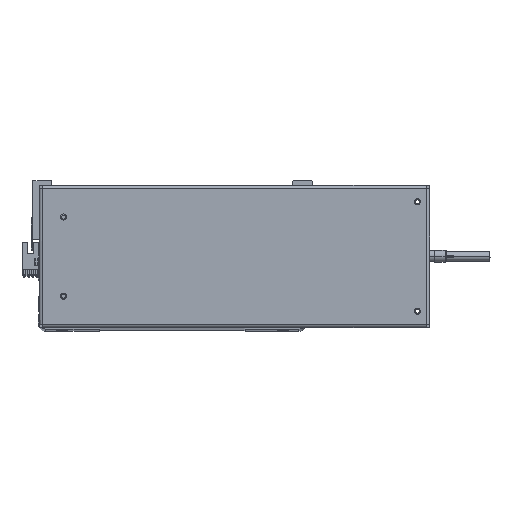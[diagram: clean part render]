
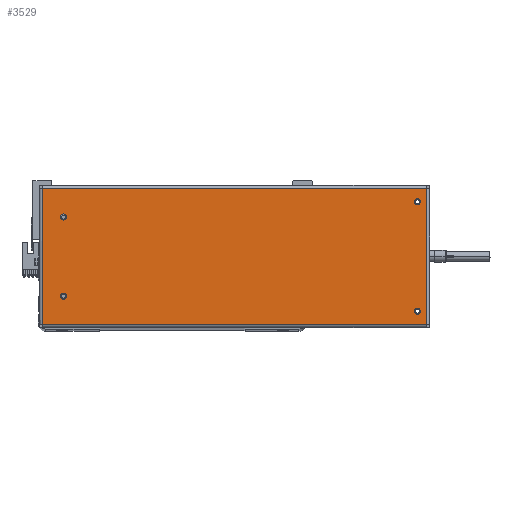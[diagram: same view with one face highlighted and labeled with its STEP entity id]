
A CAD part, top view. The second image highlights one B-rep face of the part: STEP entity #3529.
In plain terms, the highlighted planar face has unit normal (0, 0, 1).
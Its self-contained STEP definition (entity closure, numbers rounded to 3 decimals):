
#180 = ORIENTED_EDGE ( 'NONE', *, *, #4280, .T. ) ;
#339 = CARTESIAN_POINT ( 'NONE',  ( 148., -45., 0. ) ) ;
#644 = AXIS2_PLACEMENT_3D ( 'NONE', #7597, #38301, #26153 ) ;
#900 = DIRECTION ( 'NONE',  ( 0., 0., 1. ) ) ;
#1011 = CARTESIAN_POINT ( 'NONE',  ( -138., -32.5, 0. ) ) ;
#1770 = CARTESIAN_POINT ( 'NONE',  ( -143., -32.5, 0. ) ) ;
#1854 = VERTEX_POINT ( 'NONE', #31700 ) ;
#2931 = VECTOR ( 'NONE', #29731, 1000. ) ;
#3064 = VECTOR ( 'NONE', #7260, 1000. ) ;
#3361 = CIRCLE ( 'NONE', #37541, 2.5 ) ;
#3529 = ADVANCED_FACE ( 'NONE', ( #13127, #9711, #33909, #37324, #28171 ), #10865, .F. ) ;
#3578 = CARTESIAN_POINT ( 'NONE',  ( 150.5, 45., 0. ) ) ;
#4280 = EDGE_CURVE ( 'NONE', #30868, #11086, #12274, .T. ) ;
#4930 = AXIS2_PLACEMENT_3D ( 'NONE', #34902, #900, #35039 ) ;
#5795 = DIRECTION ( 'NONE',  ( 0., 0., 1. ) ) ;
#6001 = VERTEX_POINT ( 'NONE', #18735 ) ;
#6002 = CARTESIAN_POINT ( 'NONE',  ( -157.6, -55.6, 0. ) ) ;
#7030 = CIRCLE ( 'NONE', #18082, 2.5 ) ;
#7260 = DIRECTION ( 'NONE',  ( 1., 0., 0. ) ) ;
#7597 = CARTESIAN_POINT ( 'NONE',  ( -140.5, -32.5, 0. ) ) ;
#7636 = DIRECTION ( 'NONE',  ( 0., 0., 1. ) ) ;
#8881 = ORIENTED_EDGE ( 'NONE', *, *, #10517, .T. ) ;
#9534 = DIRECTION ( 'NONE',  ( 0., 0., 1. ) ) ;
#9711 = FACE_BOUND ( 'NONE', #13546, .T. ) ;
#9758 = EDGE_CURVE ( 'NONE', #26949, #13004, #17896, .T. ) ;
#9876 = ORIENTED_EDGE ( 'NONE', *, *, #34370, .F. ) ;
#9990 = EDGE_CURVE ( 'NONE', #12417, #1854, #3361, .T. ) ;
#10188 = CARTESIAN_POINT ( 'NONE',  ( 150.5, -45., 0. ) ) ;
#10517 = EDGE_CURVE ( 'NONE', #11086, #32934, #19763, .T. ) ;
#10865 = PLANE ( 'NONE',  #28105 ) ;
#11086 = VERTEX_POINT ( 'NONE', #16358 ) ;
#12274 = LINE ( 'NONE', #37312, #13268 ) ;
#12417 = VERTEX_POINT ( 'NONE', #12481 ) ;
#12481 = CARTESIAN_POINT ( 'NONE',  ( 148., 45., 0. ) ) ;
#12823 = DIRECTION ( 'NONE',  ( 1., 0., 0. ) ) ;
#12864 = CARTESIAN_POINT ( 'NONE',  ( 153., -45., 0. ) ) ;
#13004 = VERTEX_POINT ( 'NONE', #339 ) ;
#13127 = FACE_BOUND ( 'NONE', #16096, .T. ) ;
#13268 = VECTOR ( 'NONE', #18741, 1000. ) ;
#13328 = DIRECTION ( 'NONE',  ( 1., 0., 0. ) ) ;
#13340 = ORIENTED_EDGE ( 'NONE', *, *, #17297, .T. ) ;
#13515 = EDGE_CURVE ( 'NONE', #13004, #26949, #7030, .T. ) ;
#13534 = ORIENTED_EDGE ( 'NONE', *, *, #13515, .F. ) ;
#13546 = EDGE_LOOP ( 'NONE', ( #37760, #21271 ) ) ;
#13976 = CARTESIAN_POINT ( 'NONE',  ( 157.7, 58.5, 0. ) ) ;
#14633 = EDGE_LOOP ( 'NONE', ( #8881, #13340, #16345, #180 ) ) ;
#15090 = CIRCLE ( 'NONE', #38953, 2.5 ) ;
#16096 = EDGE_LOOP ( 'NONE', ( #17796, #9876 ) ) ;
#16345 = ORIENTED_EDGE ( 'NONE', *, *, #39491, .T. ) ;
#16358 = CARTESIAN_POINT ( 'NONE',  ( -157.6, 55.6, 0. ) ) ;
#17297 = EDGE_CURVE ( 'NONE', #32934, #17987, #25833, .T. ) ;
#17796 = ORIENTED_EDGE ( 'NONE', *, *, #29410, .F. ) ;
#17818 = VECTOR ( 'NONE', #22801, 1000. ) ;
#17896 = CIRCLE ( 'NONE', #24883, 2.5 ) ;
#17987 = VERTEX_POINT ( 'NONE', #23577 ) ;
#18082 = AXIS2_PLACEMENT_3D ( 'NONE', #21350, #5795, #30858 ) ;
#18499 = DIRECTION ( 'NONE',  ( 1., 0., 0. ) ) ;
#18735 = CARTESIAN_POINT ( 'NONE',  ( -143., 32.5, 0. ) ) ;
#18741 = DIRECTION ( 'NONE',  ( -1., 0., 0. ) ) ;
#19367 = LINE ( 'NONE', #20618, #2931 ) ;
#19704 = CIRCLE ( 'NONE', #4930, 2.5 ) ;
#19763 = LINE ( 'NONE', #25659, #17818 ) ;
#20100 = CIRCLE ( 'NONE', #644, 2.5 ) ;
#20458 = DIRECTION ( 'NONE',  ( 0., 0., 1. ) ) ;
#20618 = CARTESIAN_POINT ( 'NONE',  ( 157.6, -55.6, 0. ) ) ;
#21271 = ORIENTED_EDGE ( 'NONE', *, *, #28647, .F. ) ;
#21350 = CARTESIAN_POINT ( 'NONE',  ( 150.5, -45., 0. ) ) ;
#22249 = ORIENTED_EDGE ( 'NONE', *, *, #9990, .F. ) ;
#22801 = DIRECTION ( 'NONE',  ( 0., -1., 0. ) ) ;
#23577 = CARTESIAN_POINT ( 'NONE',  ( 157.6, -55.6, 0. ) ) ;
#24883 = AXIS2_PLACEMENT_3D ( 'NONE', #10188, #31837, #13328 ) ;
#25210 = CIRCLE ( 'NONE', #29788, 2.5 ) ;
#25305 = AXIS2_PLACEMENT_3D ( 'NONE', #36296, #20458, #26848 ) ;
#25659 = CARTESIAN_POINT ( 'NONE',  ( -157.6, 55.6, 0. ) ) ;
#25833 = LINE ( 'NONE', #38220, #3064 ) ;
#26153 = DIRECTION ( 'NONE',  ( 1., 0., 0. ) ) ;
#26346 = ORIENTED_EDGE ( 'NONE', *, *, #38704, .F. ) ;
#26553 = DIRECTION ( 'NONE',  ( -1., 0., 0. ) ) ;
#26848 = DIRECTION ( 'NONE',  ( 1., 0., 0. ) ) ;
#26949 = VERTEX_POINT ( 'NONE', #12864 ) ;
#27460 = EDGE_LOOP ( 'NONE', ( #26346, #22249 ) ) ;
#27868 = VERTEX_POINT ( 'NONE', #30114 ) ;
#28105 = AXIS2_PLACEMENT_3D ( 'NONE', #13976, #29686, #26553 ) ;
#28171 = FACE_OUTER_BOUND ( 'NONE', #14633, .T. ) ;
#28647 = EDGE_CURVE ( 'NONE', #6001, #27868, #31853, .T. ) ;
#29410 = EDGE_CURVE ( 'NONE', #31055, #34058, #20100, .T. ) ;
#29686 = DIRECTION ( 'NONE',  ( 0., 0., -1. ) ) ;
#29731 = DIRECTION ( 'NONE',  ( 0., 1., 0. ) ) ;
#29788 = AXIS2_PLACEMENT_3D ( 'NONE', #32550, #7636, #38861 ) ;
#30114 = CARTESIAN_POINT ( 'NONE',  ( -138., 32.5, 0. ) ) ;
#30858 = DIRECTION ( 'NONE',  ( 1., 0., 0. ) ) ;
#30868 = VERTEX_POINT ( 'NONE', #37686 ) ;
#31055 = VERTEX_POINT ( 'NONE', #1011 ) ;
#31700 = CARTESIAN_POINT ( 'NONE',  ( 153., 45., 0. ) ) ;
#31837 = DIRECTION ( 'NONE',  ( 0., 0., 1. ) ) ;
#31853 = CIRCLE ( 'NONE', #25305, 2.5 ) ;
#32550 = CARTESIAN_POINT ( 'NONE',  ( -140.5, 32.5, 0. ) ) ;
#32640 = EDGE_CURVE ( 'NONE', #27868, #6001, #25210, .T. ) ;
#32934 = VERTEX_POINT ( 'NONE', #6002 ) ;
#33909 = FACE_BOUND ( 'NONE', #37156, .T. ) ;
#34058 = VERTEX_POINT ( 'NONE', #1770 ) ;
#34097 = DIRECTION ( 'NONE',  ( 0., 0., 1. ) ) ;
#34370 = EDGE_CURVE ( 'NONE', #34058, #31055, #19704, .T. ) ;
#34902 = CARTESIAN_POINT ( 'NONE',  ( -140.5, -32.5, 0. ) ) ;
#35039 = DIRECTION ( 'NONE',  ( 1., 0., 0. ) ) ;
#36296 = CARTESIAN_POINT ( 'NONE',  ( -140.5, 32.5, 0. ) ) ;
#37156 = EDGE_LOOP ( 'NONE', ( #38948, #13534 ) ) ;
#37312 = CARTESIAN_POINT ( 'NONE',  ( 157.7, 55.6, 0. ) ) ;
#37324 = FACE_BOUND ( 'NONE', #27460, .T. ) ;
#37541 = AXIS2_PLACEMENT_3D ( 'NONE', #40109, #34097, #18499 ) ;
#37686 = CARTESIAN_POINT ( 'NONE',  ( 157.6, 55.6, 0. ) ) ;
#37760 = ORIENTED_EDGE ( 'NONE', *, *, #32640, .F. ) ;
#38220 = CARTESIAN_POINT ( 'NONE',  ( -157.7, -55.6, 0. ) ) ;
#38301 = DIRECTION ( 'NONE',  ( 0., 0., 1. ) ) ;
#38704 = EDGE_CURVE ( 'NONE', #1854, #12417, #15090, .T. ) ;
#38861 = DIRECTION ( 'NONE',  ( 1., 0., 0. ) ) ;
#38948 = ORIENTED_EDGE ( 'NONE', *, *, #9758, .F. ) ;
#38953 = AXIS2_PLACEMENT_3D ( 'NONE', #3578, #9534, #12823 ) ;
#39491 = EDGE_CURVE ( 'NONE', #17987, #30868, #19367, .T. ) ;
#40109 = CARTESIAN_POINT ( 'NONE',  ( 150.5, 45., 0. ) ) ;
